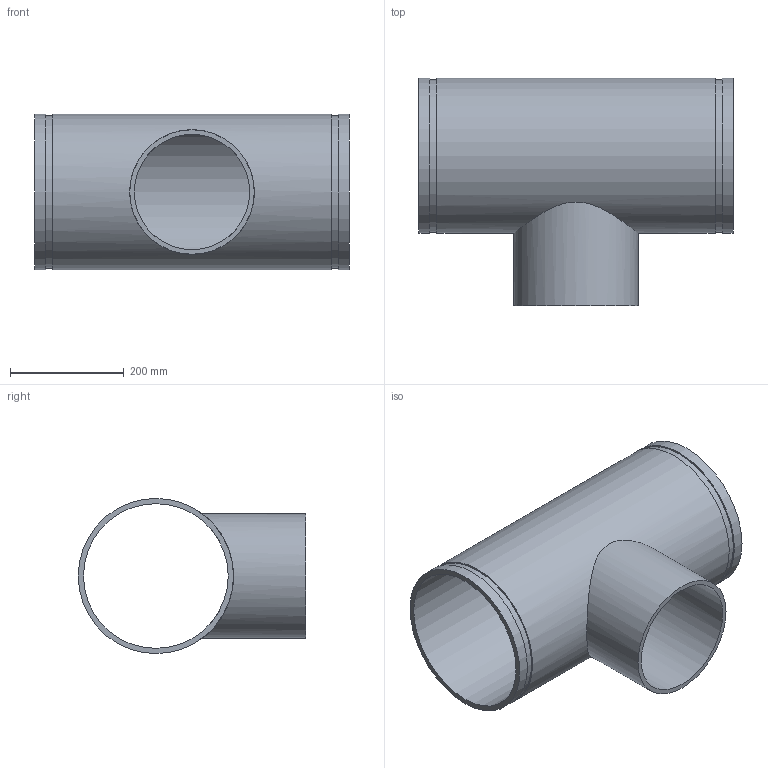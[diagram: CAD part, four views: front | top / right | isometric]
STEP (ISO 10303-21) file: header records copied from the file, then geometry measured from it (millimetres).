
FILE_DESCRIPTION(/* description */ ('VIC REDUCING TEE No 29T FFT (OGSxMPT)','CAx-IF Rec.Pracs.---Representation and Presentation of Product Manufacturing Information (PMI)---4.0---2014-10-13'),/* implementation_level */ '2;1');
FILE_NAME(/* name */ 'C:\Users\kkamble\AppData\Roaming\Autodesk\ApplicationPlugins\Back Up\Victaulic_IPS_Tee Reducing_No 29T FFT (OGSxMPT)\Victaulic_IPS_Tee Reducing_No 29T FFT (OGSxMPT)_10.0x08.0 (250x200).stp',/* time_stamp */ '2020-09-16T22:39:13+05:00',/* author */ ('CORINNE GRAY'),/* organization */ ('Victaulic'),/* preprocessor_version */ 'ST-DEVELOPER v17.2',/* originating_system */ 'Autodesk Inventor 2019',/* authorisation */ '');
FILE_SCHEMA (('AP242_MANAGED_MODEL_BASED_3D_ENGINEERING_MIM_LF { 1 0 10303 442 1 1 4 }'));
Length unit declared in the file: inch
Products named in the file (1): 29 FFT-10.0x08.0
Bounding box: 552.7 x 400.18 x 273.05 mm (x, y, z)
Volume: 4683052.9 mm3; surface area: 1074033.8 mm2
Topology: 1 solids, 1 shells, 15 faces, 32 edges, 24 vertices
Faces by surface type: cylinder 8, plane 7
Full cylindrical faces by diameter (mm): 202.717 x1, 219.075 x1, 254.508 x1, 268.275 x2, 273.05 x3
Entity records: 725 total; most frequent: CARTESIAN_POINT 237, DIRECTION 106, ORIENTED_EDGE 64, AXIS2_PLACEMENT_3D 49, EDGE_CURVE 32, EDGE_LOOP 24, VERTEX_POINT 24, CIRCLE 20
